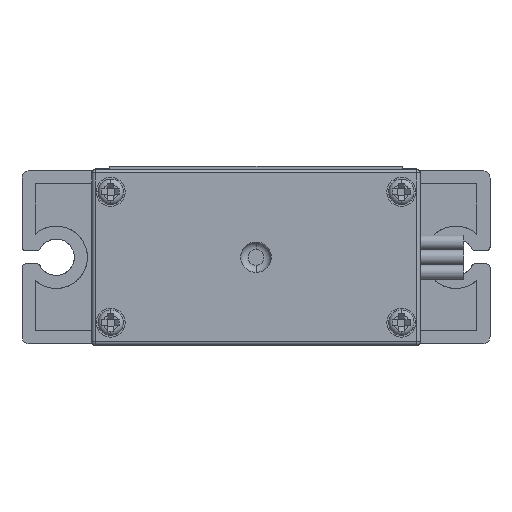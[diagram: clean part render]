
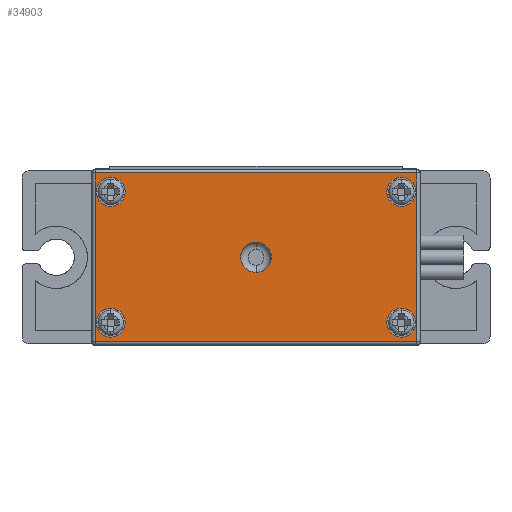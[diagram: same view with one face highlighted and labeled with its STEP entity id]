
A CAD part, front view. The second image highlights one B-rep face of the part: STEP entity #34903.
In plain terms, the highlighted planar face has unit normal (0, -1, 0).
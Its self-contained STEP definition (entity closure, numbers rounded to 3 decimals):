
#260 = VERTEX_POINT ( 'NONE', #48777 ) ;
#531 = CARTESIAN_POINT ( 'NONE',  ( 10., -11.275, 3.5 ) ) ;
#794 = CARTESIAN_POINT ( 'NONE',  ( 0., -11.275, -1.05 ) ) ;
#974 = AXIS2_PLACEMENT_3D ( 'NONE', #6692, #14988, #23023 ) ;
#1992 = VERTEX_POINT ( 'NONE', #18298 ) ;
#3886 = VECTOR ( 'NONE', #32588, 1000. ) ;
#4685 = CIRCLE ( 'NONE', #15764, 1. ) ;
#5545 = EDGE_LOOP ( 'NONE', ( #9886 ) ) ;
#6016 = ORIENTED_EDGE ( 'NONE', *, *, #17392, .F. ) ;
#6647 = DIRECTION ( 'NONE',  ( 0., 0., -1. ) ) ;
#6692 = CARTESIAN_POINT ( 'NONE',  ( 0., -11.275, 0. ) ) ;
#7182 = LINE ( 'NONE', #36861, #3886 ) ;
#9886 = ORIENTED_EDGE ( 'NONE', *, *, #22598, .F. ) ;
#10398 = EDGE_CURVE ( 'NONE', #260, #14220, #50844, .T. ) ;
#10530 = FACE_OUTER_BOUND ( 'NONE', #41624, .T. ) ;
#10591 = AXIS2_PLACEMENT_3D ( 'NONE', #22176, #39587, #6647 ) ;
#12180 = DIRECTION ( 'NONE',  ( 0., -1., 0. ) ) ;
#12819 = CARTESIAN_POINT ( 'NONE',  ( -11.05, -11.275, 5.8 ) ) ;
#13561 = CARTESIAN_POINT ( 'NONE',  ( -11.05, -11.275, 5.8 ) ) ;
#13897 = CARTESIAN_POINT ( 'NONE',  ( 11.05, -11.275, -5.8 ) ) ;
#14220 = VERTEX_POINT ( 'NONE', #16615 ) ;
#14988 = DIRECTION ( 'NONE',  ( 0., -1., 0. ) ) ;
#15051 = DIRECTION ( 'NONE',  ( 0., 1., 0. ) ) ;
#15764 = AXIS2_PLACEMENT_3D ( 'NONE', #24662, #15845, #32446 ) ;
#15845 = DIRECTION ( 'NONE',  ( 0., -1., 0. ) ) ;
#16182 = DIRECTION ( 'NONE',  ( 0., 0., -1. ) ) ;
#16522 = EDGE_LOOP ( 'NONE', ( #6016 ) ) ;
#16615 = CARTESIAN_POINT ( 'NONE',  ( 11.05, -11.275, -5.8 ) ) ;
#17098 = VERTEX_POINT ( 'NONE', #33185 ) ;
#17392 = EDGE_CURVE ( 'NONE', #1992, #1992, #41801, .T. ) ;
#18298 = CARTESIAN_POINT ( 'NONE',  ( 10., -11.275, -5.5 ) ) ;
#18901 = CARTESIAN_POINT ( 'NONE',  ( -10., -11.275, 4.5 ) ) ;
#19603 = CARTESIAN_POINT ( 'NONE',  ( 0., -11.275, 0. ) ) ;
#22176 = CARTESIAN_POINT ( 'NONE',  ( 10., -11.275, 4.5 ) ) ;
#22598 = EDGE_CURVE ( 'NONE', #41749, #41749, #24053, .T. ) ;
#22707 = VECTOR ( 'NONE', #37734, 1000. ) ;
#22815 = PLANE ( 'NONE',  #35821 ) ;
#23023 = DIRECTION ( 'NONE',  ( 0., 0., -1. ) ) ;
#23048 = ORIENTED_EDGE ( 'NONE', *, *, #41611, .T. ) ;
#24053 = CIRCLE ( 'NONE', #974, 1.05 ) ;
#24444 = ORIENTED_EDGE ( 'NONE', *, *, #52479, .T. ) ;
#24662 = CARTESIAN_POINT ( 'NONE',  ( -10., -11.275, -4.5 ) ) ;
#25127 = DIRECTION ( 'NONE',  ( -1., 0., 0. ) ) ;
#25739 = VECTOR ( 'NONE', #43314, 1000. ) ;
#26040 = ORIENTED_EDGE ( 'NONE', *, *, #50411, .F. ) ;
#26116 = CIRCLE ( 'NONE', #38080, 1. ) ;
#26172 = EDGE_CURVE ( 'NONE', #37459, #37459, #33661, .T. ) ;
#26310 = FACE_BOUND ( 'NONE', #5545, .T. ) ;
#26338 = ORIENTED_EDGE ( 'NONE', *, *, #10398, .T. ) ;
#26966 = CARTESIAN_POINT ( 'NONE',  ( 11.05, -11.275, 5.8 ) ) ;
#27379 = FACE_BOUND ( 'NONE', #16522, .T. ) ;
#28911 = ORIENTED_EDGE ( 'NONE', *, *, #31133, .F. ) ;
#30803 = EDGE_LOOP ( 'NONE', ( #28911 ) ) ;
#31133 = EDGE_CURVE ( 'NONE', #17098, #17098, #26116, .T. ) ;
#31510 = LINE ( 'NONE', #26966, #25739 ) ;
#31531 = AXIS2_PLACEMENT_3D ( 'NONE', #50148, #32787, #42150 ) ;
#32388 = LINE ( 'NONE', #12819, #51979 ) ;
#32446 = DIRECTION ( 'NONE',  ( 0., 0., -1. ) ) ;
#32548 = EDGE_LOOP ( 'NONE', ( #49339 ) ) ;
#32588 = DIRECTION ( 'NONE',  ( 0., 0., -1. ) ) ;
#32787 = DIRECTION ( 'NONE',  ( 0., -1., 0. ) ) ;
#33185 = CARTESIAN_POINT ( 'NONE',  ( -10., -11.275, 3.5 ) ) ;
#33661 = CIRCLE ( 'NONE', #10591, 1. ) ;
#34312 = VERTEX_POINT ( 'NONE', #13561 ) ;
#34903 = ADVANCED_FACE ( 'NONE', ( #26310, #46678, #47997, #27379, #48258, #10530 ), #22815, .F. ) ;
#35152 = DIRECTION ( 'NONE',  ( 1., 0., 0. ) ) ;
#35441 = EDGE_CURVE ( 'NONE', #42863, #34312, #32388, .T. ) ;
#35821 = AXIS2_PLACEMENT_3D ( 'NONE', #19603, #15051, #35152 ) ;
#36678 = CARTESIAN_POINT ( 'NONE',  ( -10., -11.275, -5.5 ) ) ;
#36861 = CARTESIAN_POINT ( 'NONE',  ( -11.05, -11.275, -5.8 ) ) ;
#37459 = VERTEX_POINT ( 'NONE', #531 ) ;
#37726 = VERTEX_POINT ( 'NONE', #36678 ) ;
#37734 = DIRECTION ( 'NONE',  ( 1., 0., 0. ) ) ;
#38080 = AXIS2_PLACEMENT_3D ( 'NONE', #18901, #12180, #16182 ) ;
#39587 = DIRECTION ( 'NONE',  ( 0., -1., 0. ) ) ;
#40010 = ORIENTED_EDGE ( 'NONE', *, *, #35441, .T. ) ;
#41611 = EDGE_CURVE ( 'NONE', #14220, #42863, #31510, .T. ) ;
#41624 = EDGE_LOOP ( 'NONE', ( #26338, #23048, #40010, #24444 ) ) ;
#41749 = VERTEX_POINT ( 'NONE', #794 ) ;
#41801 = CIRCLE ( 'NONE', #31531, 1. ) ;
#42150 = DIRECTION ( 'NONE',  ( 0., 0., -1. ) ) ;
#42863 = VERTEX_POINT ( 'NONE', #43535 ) ;
#43314 = DIRECTION ( 'NONE',  ( 0., 0., 1. ) ) ;
#43535 = CARTESIAN_POINT ( 'NONE',  ( 11.05, -11.275, 5.8 ) ) ;
#46678 = FACE_BOUND ( 'NONE', #30803, .T. ) ;
#47997 = FACE_BOUND ( 'NONE', #32548, .T. ) ;
#48258 = FACE_BOUND ( 'NONE', #48480, .T. ) ;
#48480 = EDGE_LOOP ( 'NONE', ( #26040 ) ) ;
#48777 = CARTESIAN_POINT ( 'NONE',  ( -11.05, -11.275, -5.8 ) ) ;
#49339 = ORIENTED_EDGE ( 'NONE', *, *, #26172, .F. ) ;
#50148 = CARTESIAN_POINT ( 'NONE',  ( 10., -11.275, -4.5 ) ) ;
#50411 = EDGE_CURVE ( 'NONE', #37726, #37726, #4685, .T. ) ;
#50844 = LINE ( 'NONE', #13897, #22707 ) ;
#51979 = VECTOR ( 'NONE', #25127, 1000. ) ;
#52479 = EDGE_CURVE ( 'NONE', #34312, #260, #7182, .T. ) ;
